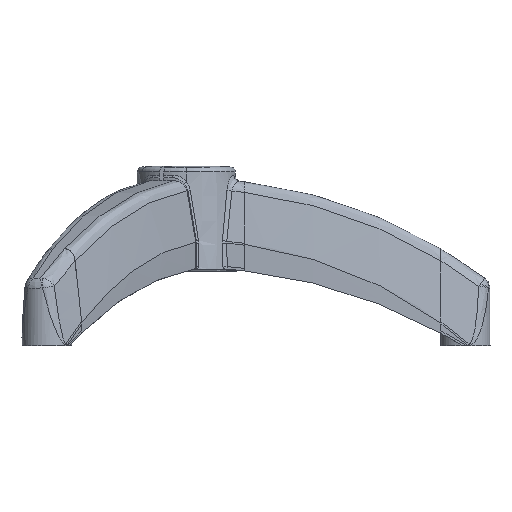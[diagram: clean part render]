
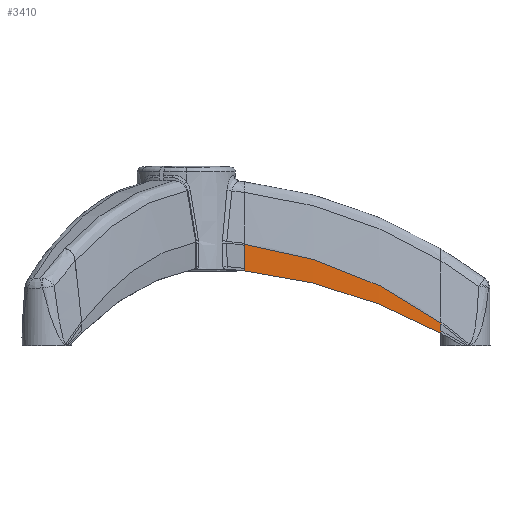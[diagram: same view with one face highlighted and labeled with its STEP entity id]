
A CAD part, left-side view. The second image highlights one B-rep face of the part: STEP entity #3410.
In plain terms, the highlighted face is a extrusion surface.
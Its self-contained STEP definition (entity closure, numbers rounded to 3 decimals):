
#2432=EDGE_CURVE('',#7062,#7063,#7064,.T.);
#3410=ADVANCED_FACE('',(#8679),#8680,.T.);
#3656=EDGE_CURVE('',#7063,#7965,#9038,.T.);
#5074=EDGE_CURVE('',#10451,#10924,#10925,.T.);
#5208=EDGE_CURVE('',#11082,#10451,#11083,.F.);
#5952=EDGE_CURVE('',#6922,#11960,#11961,.T.);
#5954=EDGE_CURVE('',#11960,#11082,#11963,.F.);
#6124=EDGE_CURVE('',#6922,#7965,#12160,.T.);
#6448=EDGE_CURVE('',#7062,#10924,#12527,.T.);
#6922=VERTEX_POINT('',#13515);
#7062=VERTEX_POINT('',#14015);
#7063=VERTEX_POINT('',#14016);
#7064=LINE('',#14017,#14018);
#7965=VERTEX_POINT('',#17523);
#8679=FACE_OUTER_BOUND('',#20264,.T.);
#8680=SURFACE_OF_LINEAR_EXTRUSION('',#20265,#20266);
#9038=B_SPLINE_CURVE_WITH_KNOTS('',3,(#21629,#21630,#21631,#21632),.UNSPECIFIED.,.F.,.F.,(4,4),(-3.53,-0.0),.UNSPECIFIED.);
#10451=VERTEX_POINT('',#29131);
#10924=VERTEX_POINT('',#31444);
#10925=B_SPLINE_CURVE_WITH_KNOTS('',3,(#31445,#31446,#31447,#31448,#31449,#31450,#31451,#31452,#31453,#31454,#31455,#31456,#31457,#31458,#31459,#31460,#31461,#31462,#31463,#31464,#31465,#31466,#31467,#31468),.UNSPECIFIED.,.F.,.F.,(4,3,2,2,2,2,2,2,2,3,4),(-1.235,0.0,21.284,39.912,72.532,84.768,106.184,138.314,154.39,170.463,171.518),.UNSPECIFIED.);
#11082=VERTEX_POINT('',#32423);
#11083=LINE('',#32424,#32425);
#11960=VERTEX_POINT('',#37324);
#11961=B_SPLINE_CURVE_WITH_KNOTS('',1,(#37325,#37326),.UNSPECIFIED.,.F.,.F.,(2,2),(-12.607,12.608),.UNSPECIFIED.);
#11963=LINE('',#37329,#37330);
#12160=B_SPLINE_CURVE_WITH_KNOTS('',3,(#38434,#38435,#38436,#38437,#38438,#38439,#38440,#38441,#38442,#38443,#38444,#38445,#38446,#38447,#38448,#38449),.UNSPECIFIED.,.F.,.F.,(4,3,3,3,3,4),(-1.142,0.0,54.374,112.733,165.341,166.347),.UNSPECIFIED.);
#12527=LINE('',#40159,#40160);
#13515=CARTESIAN_POINT('',(-21.198,-205.423,10.058));
#14015=CARTESIAN_POINT('',(-26.698,-46.917,81.089));
#14016=CARTESIAN_POINT('',(-26.698,-46.917,62.402));
#14017=CARTESIAN_POINT('',(-26.698,-46.917,41.365));
#14018=VECTOR('',#42007,1.0);
#17523=CARTESIAN_POINT('',(-26.698,-46.917,60.402));
#20264=EDGE_LOOP('',(#43353,#43354,#43355,#43356,#43357,#43358,#43359,#43360));
#20265=B_SPLINE_CURVE_WITH_KNOTS('',3,(#43361,#43362,#43363,#43364,#43365,#43366,#43367,#43368,#43369,#43370,#43371,#43372,#43373,#43374,#43375,#43376),.UNSPECIFIED.,.F.,.F.,(4,3,3,3,3,4),(-169.069,-165.341,-112.733,-54.374,-0.0,4.2),.UNSPECIFIED.);
#20266=VECTOR('',#43377,1.0);
#21629=CARTESIAN_POINT('',(-26.698,-46.917,63.766));
#21630=CARTESIAN_POINT('',(-26.698,-46.917,62.589));
#21631=CARTESIAN_POINT('',(-26.698,-46.917,61.413));
#21632=CARTESIAN_POINT('',(-26.698,-46.917,60.236));
#29131=CARTESIAN_POINT('',(-21.198,-205.423,18.408));
#31444=CARTESIAN_POINT('',(-26.698,-46.917,81.84));
#31445=CARTESIAN_POINT('',(-21.198,-205.423,18.408));
#31446=CARTESIAN_POINT('',(-21.217,-205.091,18.65));
#31447=CARTESIAN_POINT('',(-21.236,-204.757,18.891));
#31448=CARTESIAN_POINT('',(-21.254,-204.423,19.131));
#31449=CARTESIAN_POINT('',(-21.578,-198.669,23.268));
#31450=CARTESIAN_POINT('',(-21.895,-192.788,27.23));
#31451=CARTESIAN_POINT('',(-22.473,-181.545,34.32));
#31452=CARTESIAN_POINT('',(-22.736,-176.21,37.489));
#31453=CARTESIAN_POINT('',(-23.436,-161.313,45.811));
#31454=CARTESIAN_POINT('',(-23.855,-151.592,50.664));
#31455=CARTESIAN_POINT('',(-24.387,-137.936,56.706));
#31456=CARTESIAN_POINT('',(-24.528,-134.183,58.288));
#31457=CARTESIAN_POINT('',(-24.9,-123.791,62.459));
#31458=CARTESIAN_POINT('',(-25.122,-117.096,64.912));
#31459=CARTESIAN_POINT('',(-25.635,-100.173,70.532));
#31460=CARTESIAN_POINT('',(-25.905,-89.87,73.436));
#31461=CARTESIAN_POINT('',(-26.246,-74.25,77.076));
#31462=CARTESIAN_POINT('',(-26.349,-69.015,78.171));
#31463=CARTESIAN_POINT('',(-26.534,-58.497,80.119));
#31464=CARTESIAN_POINT('',(-26.615,-53.215,80.972));
#31465=CARTESIAN_POINT('',(-26.685,-47.917,81.705));
#31466=CARTESIAN_POINT('',(-26.689,-47.569,81.753));
#31467=CARTESIAN_POINT('',(-26.693,-47.247,81.796));
#31468=CARTESIAN_POINT('',(-26.698,-46.917,81.84));
#32423=CARTESIAN_POINT('',(-21.198,-205.423,17.492));
#32424=CARTESIAN_POINT('',(-21.198,-205.423,10.058));
#32425=VECTOR('',#45889,1.0);
#37324=CARTESIAN_POINT('',(-21.198,-205.423,12.057));
#37325=CARTESIAN_POINT('',(-21.198,-205.423,-0.551));
#37326=CARTESIAN_POINT('',(-21.198,-205.423,24.664));
#37329=CARTESIAN_POINT('',(-21.198,-205.423,10.058));
#37330=VECTOR('',#46917,1.0);
#38434=CARTESIAN_POINT('',(-21.198,-205.423,10.058));
#38435=CARTESIAN_POINT('',(-21.217,-205.09,10.241));
#38436=CARTESIAN_POINT('',(-21.236,-204.757,10.424));
#38437=CARTESIAN_POINT('',(-21.254,-204.423,10.607));
#38438=CARTESIAN_POINT('',(-22.147,-188.552,19.314));
#38439=CARTESIAN_POINT('',(-22.967,-172.122,27.008));
#38440=CARTESIAN_POINT('',(-23.687,-155.263,33.624));
#38441=CARTESIAN_POINT('',(-24.459,-137.168,40.724));
#38442=CARTESIAN_POINT('',(-25.117,-118.582,46.585));
#38443=CARTESIAN_POINT('',(-25.635,-99.678,51.145));
#38444=CARTESIAN_POINT('',(-26.102,-82.637,55.256));
#38445=CARTESIAN_POINT('',(-26.455,-65.339,58.313));
#38446=CARTESIAN_POINT('',(-26.685,-47.917,60.29));
#38447=CARTESIAN_POINT('',(-26.689,-47.583,60.328));
#38448=CARTESIAN_POINT('',(-26.693,-47.25,60.366));
#38449=CARTESIAN_POINT('',(-26.698,-46.917,60.404));
#40159=CARTESIAN_POINT('',(-26.698,-46.917,60.404));
#40160=VECTOR('',#47524,1.0);
#42007=DIRECTION('',(-0.0,0.0,-1.0));
#43353=ORIENTED_EDGE('',*,*,#5074,.T.);
#43354=ORIENTED_EDGE('',*,*,#6448,.F.);
#43355=ORIENTED_EDGE('',*,*,#2432,.T.);
#43356=ORIENTED_EDGE('',*,*,#3656,.T.);
#43357=ORIENTED_EDGE('',*,*,#6124,.F.);
#43358=ORIENTED_EDGE('',*,*,#5952,.T.);
#43359=ORIENTED_EDGE('',*,*,#5954,.T.);
#43360=ORIENTED_EDGE('',*,*,#5208,.T.);
#43361=CARTESIAN_POINT('',(-26.733,-44.212,60.71));
#43362=CARTESIAN_POINT('',(-26.717,-45.447,60.57));
#43363=CARTESIAN_POINT('',(-26.701,-46.682,60.43));
#43364=CARTESIAN_POINT('',(-26.685,-47.917,60.29));
#43365=CARTESIAN_POINT('',(-26.455,-65.339,58.313));
#43366=CARTESIAN_POINT('',(-26.102,-82.637,55.256));
#43367=CARTESIAN_POINT('',(-25.635,-99.678,51.145));
#43368=CARTESIAN_POINT('',(-25.117,-118.582,46.585));
#43369=CARTESIAN_POINT('',(-24.459,-137.168,40.724));
#43370=CARTESIAN_POINT('',(-23.687,-155.263,33.624));
#43371=CARTESIAN_POINT('',(-22.967,-172.122,27.008));
#43372=CARTESIAN_POINT('',(-22.147,-188.552,19.314));
#43373=CARTESIAN_POINT('',(-21.254,-204.423,10.607));
#43374=CARTESIAN_POINT('',(-21.186,-205.649,9.934));
#43375=CARTESIAN_POINT('',(-21.117,-206.875,9.262));
#43376=CARTESIAN_POINT('',(-21.048,-208.101,8.589));
#43377=DIRECTION('',(0.0,0.0,1.0));
#45889=DIRECTION('',(-0.0,-0.0,-1.0));
#46917=DIRECTION('',(-0.0,-0.0,-1.0));
#47524=DIRECTION('',(0.0,0.0,1.0));
